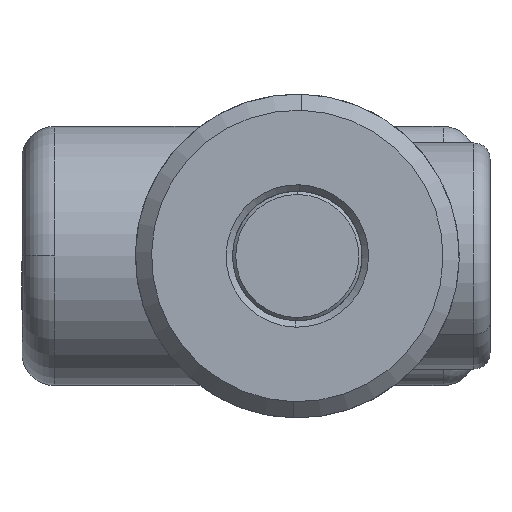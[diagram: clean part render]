
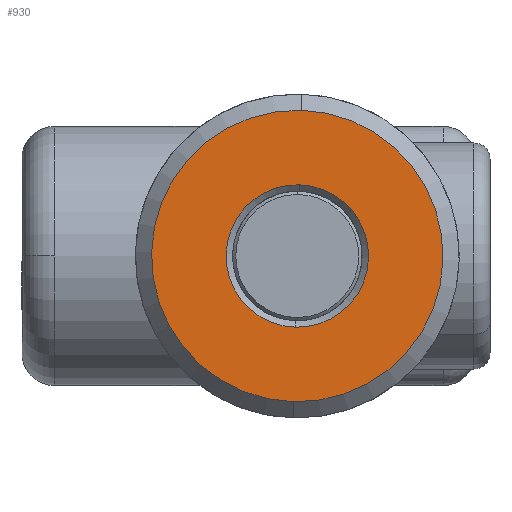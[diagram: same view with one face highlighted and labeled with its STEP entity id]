
A CAD part, front view. The second image highlights one B-rep face of the part: STEP entity #930.
In plain terms, the highlighted planar face has unit normal (0, -1, 0).
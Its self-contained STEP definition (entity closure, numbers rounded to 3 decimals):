
#741 = CARTESIAN_POINT ( 'NONE',  ( 0., 0., 0. ) ) ;
#930 = ADVANCED_FACE ( 'NONE', ( #4419, #5476 ), #1091, .F. ) ;
#1091 = PLANE ( 'NONE',  #9356 ) ;
#2170 = CARTESIAN_POINT ( 'NONE',  ( 0., 0., 0. ) ) ;
#2318 = CARTESIAN_POINT ( 'NONE',  ( 0., 0., 0. ) ) ;
#2456 = CARTESIAN_POINT ( 'NONE',  ( 0., 0., -2.2 ) ) ;
#2555 = EDGE_CURVE ( 'NONE', #6287, #5757, #13704, .T. ) ;
#3694 = CIRCLE ( 'NONE', #12286, 2.2 ) ;
#3781 = VERTEX_POINT ( 'NONE', #5247 ) ;
#4419 = FACE_OUTER_BOUND ( 'NONE', #4973, .T. ) ;
#4699 = AXIS2_PLACEMENT_3D ( 'NONE', #741, #5940, #5720 ) ;
#4973 = EDGE_LOOP ( 'NONE', ( #8574, #7982 ) ) ;
#5247 = CARTESIAN_POINT ( 'NONE',  ( 0., 0., 2.2 ) ) ;
#5476 = FACE_BOUND ( 'NONE', #5872, .T. ) ;
#5635 = CARTESIAN_POINT ( 'NONE',  ( 0., 0., -4.5 ) ) ;
#5720 = DIRECTION ( 'NONE',  ( 0., 0., 1. ) ) ;
#5757 = VERTEX_POINT ( 'NONE', #13528 ) ;
#5765 = CIRCLE ( 'NONE', #13671, 4.5 ) ;
#5872 = EDGE_LOOP ( 'NONE', ( #13902, #10505 ) ) ;
#5940 = DIRECTION ( 'NONE',  ( 0., 1., 0. ) ) ;
#6287 = VERTEX_POINT ( 'NONE', #5635 ) ;
#6312 = DIRECTION ( 'NONE',  ( 0., -1., 0. ) ) ;
#6326 = DIRECTION ( 'NONE',  ( 0., 1., 0. ) ) ;
#6407 = DIRECTION ( 'NONE',  ( 0., -1., 0. ) ) ;
#7584 = AXIS2_PLACEMENT_3D ( 'NONE', #2170, #6407, #10730 ) ;
#7982 = ORIENTED_EDGE ( 'NONE', *, *, #2555, .T. ) ;
#8574 = ORIENTED_EDGE ( 'NONE', *, *, #11625, .T. ) ;
#8821 = DIRECTION ( 'NONE',  ( 0., 0., 1. ) ) ;
#9089 = EDGE_CURVE ( 'NONE', #3781, #12532, #13516, .T. ) ;
#9356 = AXIS2_PLACEMENT_3D ( 'NONE', #9786, #6326, #11917 ) ;
#9786 = CARTESIAN_POINT ( 'NONE',  ( 0., 0., 0. ) ) ;
#10505 = ORIENTED_EDGE ( 'NONE', *, *, #9089, .T. ) ;
#10730 = DIRECTION ( 'NONE',  ( 0., 0., 1. ) ) ;
#10838 = EDGE_CURVE ( 'NONE', #12532, #3781, #3694, .T. ) ;
#11166 = DIRECTION ( 'NONE',  ( 0., 1., 0. ) ) ;
#11625 = EDGE_CURVE ( 'NONE', #5757, #6287, #5765, .T. ) ;
#11762 = CARTESIAN_POINT ( 'NONE',  ( 0., 0., 0. ) ) ;
#11917 = DIRECTION ( 'NONE',  ( 0., 0., 1. ) ) ;
#12286 = AXIS2_PLACEMENT_3D ( 'NONE', #2318, #11166, #8821 ) ;
#12532 = VERTEX_POINT ( 'NONE', #2456 ) ;
#12962 = DIRECTION ( 'NONE',  ( 0., 0., 1. ) ) ;
#13516 = CIRCLE ( 'NONE', #4699, 2.2 ) ;
#13528 = CARTESIAN_POINT ( 'NONE',  ( 0., 0., 4.5 ) ) ;
#13671 = AXIS2_PLACEMENT_3D ( 'NONE', #11762, #6312, #12962 ) ;
#13704 = CIRCLE ( 'NONE', #7584, 4.5 ) ;
#13902 = ORIENTED_EDGE ( 'NONE', *, *, #10838, .T. ) ;
